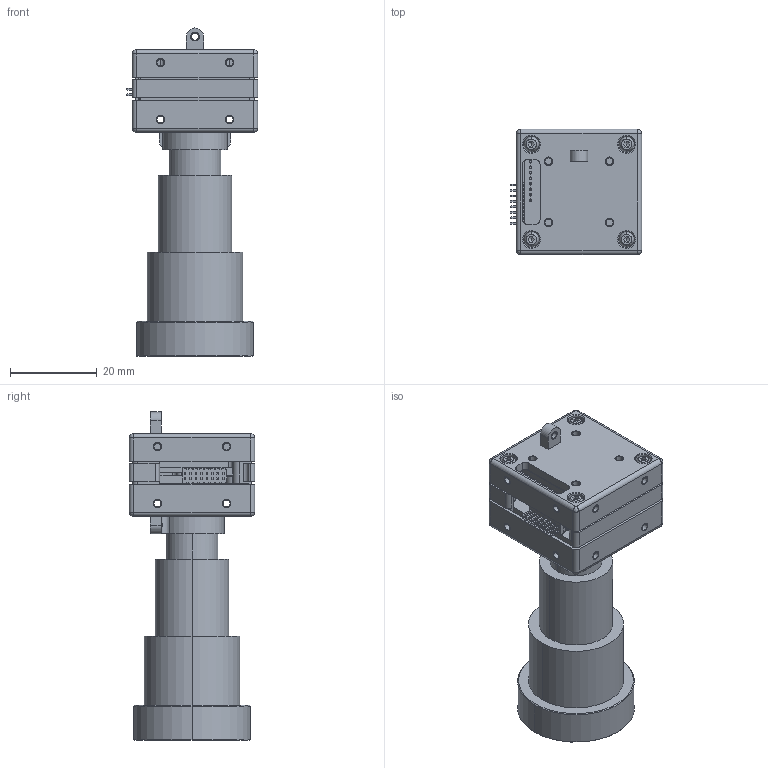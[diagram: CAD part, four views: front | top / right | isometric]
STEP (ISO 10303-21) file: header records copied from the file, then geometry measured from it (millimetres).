
FILE_DESCRIPTION((''),'2;1');
FILE_NAME('IM200-ASM-0003-3S_ASM','2019-04-10T14:30:22',('Hyperion-Thyzz'),(''),'CREO PARAMETRIC BY PTC INC, 2018260','CREO PARAMETRIC BY PTC INC, 2018260','');
FILE_SCHEMA(('AUTOMOTIVE_DESIGN { 1 0 10303 214 1 1 1 1 }'));
Length unit declared in the file: millimetre
Products named in the file (36): BOARDST200CHU; PCB_ST200FM_CHU_V2_ASM; IMPORTED15; IMPORTED12; IMPORTED18; IMPORTED10; IMPORTED13; IMPORTED5; IMPORTED7; IMPORTED11; IMPORTED9; IMPORTED3; CUT-EXTRUDE1; IMPORTED17; IMPORTED14; IMPORTED4; IMPORTED16; IMPORTED8; IMPORTED6; _____B082MWCN-RC_ASM; HEADER-MALE-8X2P-RA-1_ASM; ST200FM_CHU_V2_ASM; ST200-MDDLBRCK-0003-2S_; BOARDIM200FM_MPU_V1_1; PCBIM200FM_MPU_V1_1_ASM; IM200FM_MPU_V1_1_ASM; ST200-LNSMNT-0004-3S_; ST200-BTTMBRCK-0003-2S_; ST200-SH-M1_6X4-1_S_; ST200-BH-M2X16-2_S_; ST200-MDDLSHLD-0003-2S_; ST200-MSHLDADH-0003-1S_; ST200-BSHLDADH-0003-1S_; ST200-BTTMSHLD-0003-2S_; IM200-LNS50-0001-1S_; IM200-ASM-0003-3S_ASM
Assembly tree (40 placements, depth 5):
  IM200-ASM-0003-3S_ASM
    ST200FM_CHU_V2_ASM
      PCB_ST200FM_CHU_V2_ASM
        BOARDST200CHU
      HEADER-MALE-8X2P-RA-1_ASM
        _____B082MWCN-RC_ASM
          IMPORTED15
          IMPORTED12
          IMPORTED18
          IMPORTED10
          IMPORTED13
          IMPORTED5
          IMPORTED7
          IMPORTED11
          IMPORTED9
          IMPORTED3
          CUT-EXTRUDE1
          IMPORTED17
          IMPORTED14
          IMPORTED4
          IMPORTED16
          IMPORTED8
          IMPORTED6
    ST200-MDDLBRCK-0003-2S_
    IM200FM_MPU_V1_1_ASM
      PCBIM200FM_MPU_V1_1_ASM
        BOARDIM200FM_MPU_V1_1
    ST200-LNSMNT-0004-3S_
    ST200-BTTMBRCK-0003-2S_
    ST200-SH-M1_6X4-1_S_  x2
    ST200-BH-M2X16-2_S_  x4
    ST200-MDDLSHLD-0003-2S_
    ST200-MSHLDADH-0003-1S_  x2
    ST200-BSHLDADH-0003-1S_
    ST200-BTTMSHLD-0003-2S_
    IM200-LNS50-0001-1S_
Bounding box: 30.38 x 29 x 75.79 mm (x, y, z)
Volume: 24576.9 mm3; surface area: 19738.2 mm2
Topology: 34 solids, 63 shells, 1218 faces, 3209 edges, 2057 vertices
Faces by surface type: plane 721, cylinder 415, cone 60, sphere 18, torus 4
Entity records: 54264 total; most frequent: CARTESIAN_POINT 7058, DIRECTION 6699, ORIENTED_EDGE 5780, PRESENTATION_STYLE_ASSIGNMENT 3711, STYLED_ITEM 3711, EDGE_CURVE 2976, CURVE_STYLE 2946, AXIS2_PLACEMENT_3D 2304
